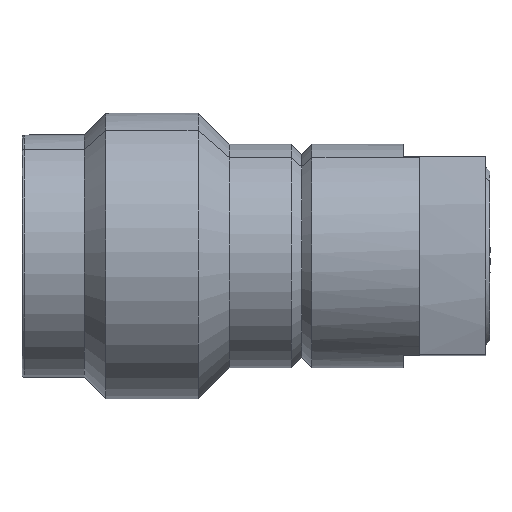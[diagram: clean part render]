
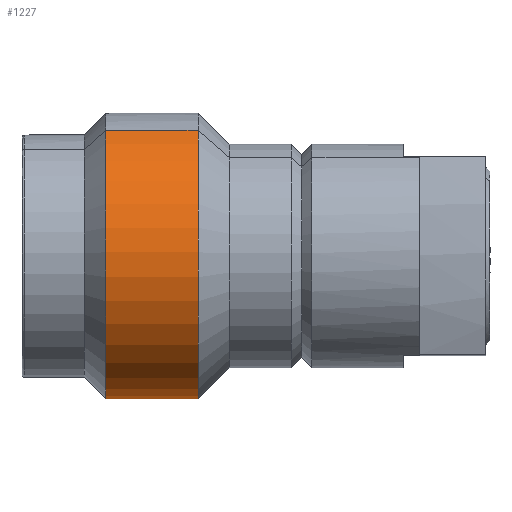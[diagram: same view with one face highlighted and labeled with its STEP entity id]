
A CAD part, top view. The second image highlights one B-rep face of the part: STEP entity #1227.
In plain terms, the highlighted cylindrical face has radius 3.45 mm (diameter 6.9 mm), a partial arc.
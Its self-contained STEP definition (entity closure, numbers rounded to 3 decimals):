
#1045=CARTESIAN_POINT('Vertex',(4.25,-3.028,-1.654)) ;
#1052=CARTESIAN_POINT('Vertex',(4.25,3.028,1.654)) ;
#1055=CARTESIAN_POINT('Axis2P3D Location',(4.25,0.,0.)) ;
#1197=CARTESIAN_POINT('Axis2P3D Location',(7.501,0.,0.)) ;
#1202=CARTESIAN_POINT('Line Origine',(7.501,-3.028,-1.654)) ;
#1206=CARTESIAN_POINT('Vertex',(2.025,-3.028,-1.654)) ;
#1209=CARTESIAN_POINT('Line Origine',(7.501,3.028,1.654)) ;
#1213=CARTESIAN_POINT('Vertex',(2.025,3.028,1.654)) ;
#1216=CARTESIAN_POINT('Axis2P3D Location',(2.025,0.,0.)) ;
#1056=DIRECTION('Axis2P3D Direction',(-1.,0.,0.)) ;
#1198=DIRECTION('Axis2P3D Direction',(1.,0.,0.)) ;
#1199=DIRECTION('Axis2P3D XDirection',(0.,0.878,0.479)) ;
#1203=DIRECTION('Vector Direction',(1.,0.,0.)) ;
#1210=DIRECTION('Vector Direction',(1.,0.,0.)) ;
#1217=DIRECTION('Axis2P3D Direction',(1.,0.,0.)) ;
#1057=AXIS2_PLACEMENT_3D('Circle Axis2P3D',#1055,#1056,$) ;
#1200=AXIS2_PLACEMENT_3D('Cylinder Axis2P3D',#1197,#1198,#1199) ;
#1218=AXIS2_PLACEMENT_3D('Circle Axis2P3D',#1216,#1217,$) ;
#1222=ORIENTED_EDGE('',*,*,#1208,.T.) ;
#1223=ORIENTED_EDGE('',*,*,#1059,.F.) ;
#1224=ORIENTED_EDGE('',*,*,#1215,.F.) ;
#1225=ORIENTED_EDGE('',*,*,#1220,.T.) ;
#1204=VECTOR('Line Direction',#1203,1.) ;
#1211=VECTOR('Line Direction',#1210,1.) ;
#1227=ADVANCED_FACE('',(#1226),#1201,.T.) ;
#1058=CIRCLE('generated circle',#1057,3.45) ;
#1219=CIRCLE('generated circle',#1218,3.45) ;
#1201=CYLINDRICAL_SURFACE('generated cylinder',#1200,3.45) ;
#1059=EDGE_CURVE('',#1053,#1046,#1058,.F.) ;
#1208=EDGE_CURVE('',#1207,#1046,#1205,.T.) ;
#1215=EDGE_CURVE('',#1214,#1053,#1212,.T.) ;
#1220=EDGE_CURVE('',#1214,#1207,#1219,.T.) ;
#1221=EDGE_LOOP('',(#1222,#1223,#1224,#1225)) ;
#1226=FACE_OUTER_BOUND('',#1221,.T.) ;
#1205=LINE('Line',#1202,#1204) ;
#1212=LINE('Line',#1209,#1211) ;
#1046=VERTEX_POINT('',#1045) ;
#1053=VERTEX_POINT('',#1052) ;
#1207=VERTEX_POINT('',#1206) ;
#1214=VERTEX_POINT('',#1213) ;
